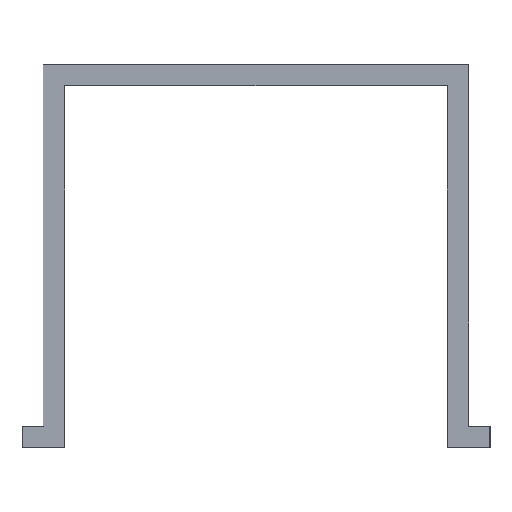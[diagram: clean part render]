
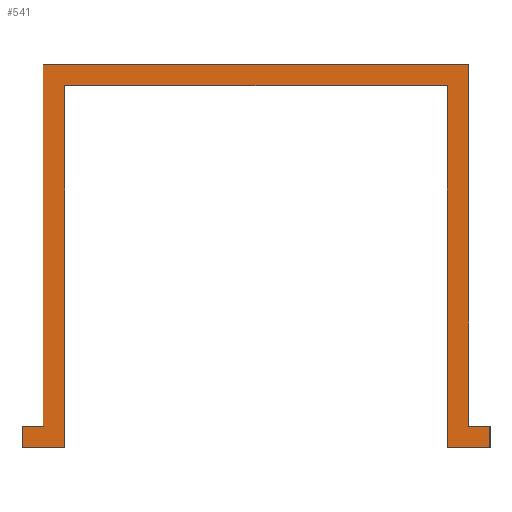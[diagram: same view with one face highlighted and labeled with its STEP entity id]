
A CAD part, left-side view. The second image highlights one B-rep face of the part: STEP entity #541.
In plain terms, the highlighted planar face has unit normal (-1, 0, 0).
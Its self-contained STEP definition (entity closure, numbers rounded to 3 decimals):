
#541=ADVANCED_FACE('',(#968),#969,.F.);
#968=FACE_OUTER_BOUND('',#1525,.T.);
#969=PLANE('',#1526);
#1525=EDGE_LOOP('',(#2073,#2074,#2075,#2076,#2077,#2078,#2079,#2080,#2081,#2082,#2083,#2084,#2085,#2086,#2087,#2088));
#1526=AXIS2_PLACEMENT_3D('',#2089,#2090,#2091);
#2073=ORIENTED_EDGE('',*,*,#2601,.T.);
#2074=ORIENTED_EDGE('',*,*,#2503,.T.);
#2075=ORIENTED_EDGE('',*,*,#2573,.T.);
#2076=ORIENTED_EDGE('',*,*,#2578,.F.);
#2077=ORIENTED_EDGE('',*,*,#2567,.F.);
#2078=ORIENTED_EDGE('',*,*,#2598,.T.);
#2079=ORIENTED_EDGE('',*,*,#2602,.T.);
#2080=ORIENTED_EDGE('',*,*,#2603,.T.);
#2081=ORIENTED_EDGE('',*,*,#2604,.T.);
#2082=ORIENTED_EDGE('',*,*,#2605,.T.);
#2083=ORIENTED_EDGE('',*,*,#2606,.T.);
#2084=ORIENTED_EDGE('',*,*,#2607,.T.);
#2085=ORIENTED_EDGE('',*,*,#2608,.T.);
#2086=ORIENTED_EDGE('',*,*,#2609,.T.);
#2087=ORIENTED_EDGE('',*,*,#2610,.T.);
#2088=ORIENTED_EDGE('',*,*,#2611,.T.);
#2089=CARTESIAN_POINT('',(0.0,0.,-6.763));
#2090=DIRECTION('',(1.0,0.0,0.0));
#2091=DIRECTION('',(0.0,0.,-1.0));
#2503=EDGE_CURVE('',#2908,#2906,#2909,.T.);
#2567=EDGE_CURVE('',#3000,#3003,#3004,.T.);
#2573=EDGE_CURVE('',#2906,#3011,#3013,.T.);
#2578=EDGE_CURVE('',#3003,#3011,#3020,.T.);
#2598=EDGE_CURVE('',#3000,#3043,#3045,.T.);
#2601=EDGE_CURVE('',#3048,#2908,#3049,.T.);
#2602=EDGE_CURVE('',#3043,#3050,#3051,.T.);
#2603=EDGE_CURVE('',#3050,#3052,#3053,.T.);
#2604=EDGE_CURVE('',#3052,#3054,#3055,.T.);
#2605=EDGE_CURVE('',#3054,#3056,#3057,.T.);
#2606=EDGE_CURVE('',#3056,#3058,#3059,.T.);
#2607=EDGE_CURVE('',#3058,#3060,#3061,.T.);
#2608=EDGE_CURVE('',#3060,#3062,#3063,.T.);
#2609=EDGE_CURVE('',#3062,#3064,#3065,.T.);
#2610=EDGE_CURVE('',#3064,#3066,#3067,.T.);
#2611=EDGE_CURVE('',#3066,#3048,#3068,.T.);
#2906=VERTEX_POINT('',#3240);
#2908=VERTEX_POINT('',#3242);
#2909=LINE('',#3243,#3244);
#3000=VERTEX_POINT('',#3363);
#3003=VERTEX_POINT('',#3366);
#3004=LINE('',#3367,#3368);
#3011=VERTEX_POINT('',#3377);
#3013=LINE('',#3379,#3380);
#3020=LINE('',#3388,#3389);
#3043=VERTEX_POINT('',#3419);
#3045=LINE('',#3422,#3423);
#3048=VERTEX_POINT('',#3426);
#3049=LINE('',#3427,#3428);
#3050=VERTEX_POINT('',#3429);
#3051=LINE('',#3430,#3431);
#3052=VERTEX_POINT('',#3432);
#3053=LINE('',#3433,#3434);
#3054=VERTEX_POINT('',#3435);
#3055=LINE('',#3436,#3437);
#3056=VERTEX_POINT('',#3438);
#3057=LINE('',#3439,#3440);
#3058=VERTEX_POINT('',#3441);
#3059=LINE('',#3442,#3443);
#3060=VERTEX_POINT('',#3444);
#3061=LINE('',#3445,#3446);
#3062=VERTEX_POINT('',#3447);
#3063=LINE('',#3448,#3449);
#3064=VERTEX_POINT('',#3450);
#3065=LINE('',#3451,#3452);
#3066=VERTEX_POINT('',#3453);
#3067=LINE('',#3454,#3455);
#3068=LINE('',#3456,#3457);
#3240=CARTESIAN_POINT('',(0.0,10.0,-16.995));
#3242=CARTESIAN_POINT('',(0.0,10.0,0.));
#3243=CARTESIAN_POINT('',(0.0,10.0,0.));
#3244=VECTOR('',#3600,1.0);
#3363=CARTESIAN_POINT('',(0.,10.0,-16.997));
#3366=CARTESIAN_POINT('',(0.,10.005,-16.997));
#3367=CARTESIAN_POINT('',(0.,10.0,-16.997));
#3368=VECTOR('',#3680,1.0);
#3377=CARTESIAN_POINT('',(0.0,10.005,-16.995));
#3379=CARTESIAN_POINT('',(0.0,10.0,-16.995));
#3380=VECTOR('',#3689,1.0);
#3388=CARTESIAN_POINT('',(0.0,10.005,-16.997));
#3389=VECTOR('',#3697,1.0);
#3419=CARTESIAN_POINT('',(0.0,10.0,-17.0));
#3422=CARTESIAN_POINT('',(0.0,10.0,0.));
#3423=VECTOR('',#3718,1.0);
#3426=CARTESIAN_POINT('',(0.0,-10.0,0.));
#3427=CARTESIAN_POINT('',(0.0,-10.0,0.));
#3428=VECTOR('',#3719,1.0);
#3429=CARTESIAN_POINT('',(0.0,11.,-17.0));
#3430=CARTESIAN_POINT('',(0.0,10.0,-17.0));
#3431=VECTOR('',#3720,1.0);
#3432=CARTESIAN_POINT('',(0.0,11.,-18.0));
#3433=CARTESIAN_POINT('',(0.0,11.,-17.0));
#3434=VECTOR('',#3721,1.0);
#3435=CARTESIAN_POINT('',(0.0,9.0,-18.0));
#3436=CARTESIAN_POINT('',(0.0,11.,-18.0));
#3437=VECTOR('',#3722,1.0);
#3438=CARTESIAN_POINT('',(0.0,9.0,-1.0));
#3439=CARTESIAN_POINT('',(0.0,9.0,-18.0));
#3440=VECTOR('',#3723,1.0);
#3441=CARTESIAN_POINT('',(0.0,-9.0,-1.0));
#3442=CARTESIAN_POINT('',(0.0,9.0,-1.0));
#3443=VECTOR('',#3724,1.0);
#3444=CARTESIAN_POINT('',(0.0,-9.0,-18.0));
#3445=CARTESIAN_POINT('',(0.0,-9.0,-1.0));
#3446=VECTOR('',#3725,1.0);
#3447=CARTESIAN_POINT('',(0.0,-11.,-18.0));
#3448=CARTESIAN_POINT('',(0.0,-9.0,-18.0));
#3449=VECTOR('',#3726,1.0);
#3450=CARTESIAN_POINT('',(0.0,-11.,-17.0));
#3451=CARTESIAN_POINT('',(0.0,-11.,-18.0));
#3452=VECTOR('',#3727,1.0);
#3453=CARTESIAN_POINT('',(0.0,-10.0,-17.0));
#3454=CARTESIAN_POINT('',(0.0,-11.,-17.0));
#3455=VECTOR('',#3728,1.0);
#3456=CARTESIAN_POINT('',(0.0,-10.0,-17.0));
#3457=VECTOR('',#3729,1.0);
#3600=DIRECTION('',(0.0,0.,-1.0));
#3680=DIRECTION('',(0.0,1.0,0.));
#3689=DIRECTION('',(0.0,1.0,0.));
#3697=DIRECTION('',(0.,0.,1.0));
#3718=DIRECTION('',(0.0,0.,-1.0));
#3719=DIRECTION('',(0.0,1.0,0.));
#3720=DIRECTION('',(0.0,1.0,0.));
#3721=DIRECTION('',(0.0,0.,-1.0));
#3722=DIRECTION('',(0.0,-1.0,0.));
#3723=DIRECTION('',(0.0,0.,1.0));
#3724=DIRECTION('',(0.0,-1.0,0.));
#3725=DIRECTION('',(0.0,0.,-1.0));
#3726=DIRECTION('',(0.0,-1.0,0.));
#3727=DIRECTION('',(0.0,0.,1.0));
#3728=DIRECTION('',(0.0,1.0,0.));
#3729=DIRECTION('',(0.0,0.,1.0));
